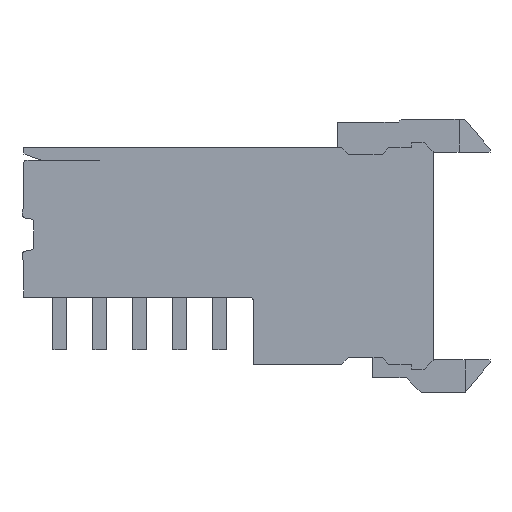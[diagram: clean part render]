
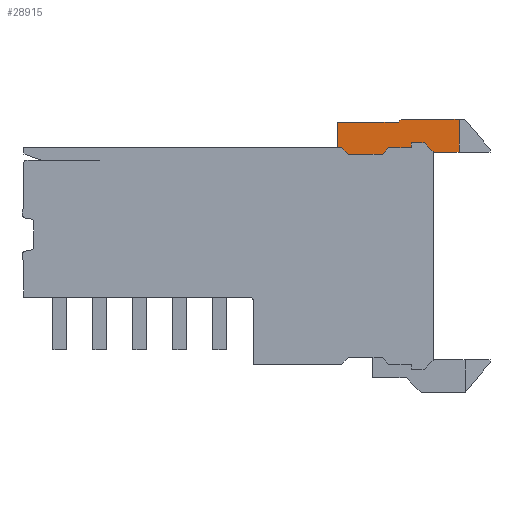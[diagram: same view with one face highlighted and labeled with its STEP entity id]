
A CAD part, left-side view. The second image highlights one B-rep face of the part: STEP entity #28915.
In plain terms, the highlighted planar face has unit normal (-1, 0, 0).
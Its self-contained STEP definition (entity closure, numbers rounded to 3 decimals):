
#287 = DIRECTION ( 'NONE',  ( 0., 0., -1. ) ) ;
#288 = VECTOR ( 'NONE', #287, 1000. ) ;
#289 = CARTESIAN_POINT ( 'NONE',  ( -26.77, -7.9, 11.1 ) ) ;
#290 = LINE ( 'NONE', #289, #288 ) ;
#1847 = DIRECTION ( 'NONE',  ( 0., 1., 0. ) ) ;
#1848 = VECTOR ( 'NONE', #1847, 1000. ) ;
#1849 = CARTESIAN_POINT ( 'NONE',  ( -26.77, -8.55, 11.35 ) ) ;
#1850 = LINE ( 'NONE', #1849, #1848 ) ;
#5214 = DIRECTION ( 'NONE',  ( 0., 1., 0. ) ) ;
#5215 = VECTOR ( 'NONE', #5214, 1000. ) ;
#5216 = CARTESIAN_POINT ( 'NONE',  ( -26.77, -6.78, 11.1 ) ) ;
#5217 = LINE ( 'NONE', #5216, #5215 ) ;
#8962 = EDGE_CURVE ( 'NONE', #36677, #26684, #75204, .T. ) ;
#9471 = EDGE_CURVE ( 'NONE', #9474, #60953, #10297, .T. ) ;
#9474 = VERTEX_POINT ( 'NONE', #10289 ) ;
#10289 = CARTESIAN_POINT ( 'NONE',  ( -26.77, -9., 10.875 ) ) ;
#10294 = DIRECTION ( 'NONE',  ( 0., 0., 1. ) ) ;
#10295 = VECTOR ( 'NONE', #10294, 1000. ) ;
#10296 = CARTESIAN_POINT ( 'NONE',  ( -26.77, -9., 0.45 ) ) ;
#10297 = LINE ( 'NONE', #10296, #10295 ) ;
#14530 = CARTESIAN_POINT ( 'NONE',  ( -26.77, -4.75, 10.77 ) ) ;
#14531 = DIRECTION ( 'NONE',  ( 0., -1., 0. ) ) ;
#14532 = VECTOR ( 'NONE', #14531, 1000. ) ;
#14533 = CARTESIAN_POINT ( 'NONE',  ( -26.77, -4.75, 10.77 ) ) ;
#14534 = LINE ( 'NONE', #14533, #14532 ) ;
#14556 = CARTESIAN_POINT ( 'NONE',  ( -26.77, -6.45, 10.77 ) ) ;
#14557 = DIRECTION ( 'NONE',  ( 0., -0.707, 0.707 ) ) ;
#14558 = VECTOR ( 'NONE', #14557, 1000. ) ;
#14559 = CARTESIAN_POINT ( 'NONE',  ( -26.77, -6.45, 10.77 ) ) ;
#14560 = LINE ( 'NONE', #14559, #14558 ) ;
#14561 = CARTESIAN_POINT ( 'NONE',  ( -26.77, -6.78, 11.1 ) ) ;
#18333 = CARTESIAN_POINT ( 'NONE',  ( -26.77, -10.3, 12.525 ) ) ;
#18334 = CARTESIAN_POINT ( 'NONE',  ( -26.77, -7.4, 12.525 ) ) ;
#18335 = DIRECTION ( 'NONE',  ( 0., -1., 0. ) ) ;
#18336 = VECTOR ( 'NONE', #18335, 1000. ) ;
#18337 = CARTESIAN_POINT ( 'NONE',  ( -26.77, -8.4, 12.525 ) ) ;
#18338 = LINE ( 'NONE', #18337, #18336 ) ;
#18364 = DIRECTION ( 'NONE',  ( 0., 0., -1. ) ) ;
#18365 = DIRECTION ( 'NONE',  ( 1., 0., 0. ) ) ;
#18366 = CARTESIAN_POINT ( 'NONE',  ( -26.77, -6.78, 10.77 ) ) ;
#18367 = AXIS2_PLACEMENT_3D ( 'NONE', #18366, #18365, #18364 ) ;
#18368 = PLANE ( 'NONE',  #18367 ) ;
#18369 = FACE_OUTER_BOUND ( 'NONE', #28916, .T. ) ;
#18414 = DIRECTION ( 'NONE',  ( 0., 1., 0. ) ) ;
#18415 = VECTOR ( 'NONE', #18414, 1000. ) ;
#18416 = CARTESIAN_POINT ( 'NONE',  ( -26.77, -11.85, 10.875 ) ) ;
#18417 = LINE ( 'NONE', #18416, #18415 ) ;
#18418 = CARTESIAN_POINT ( 'NONE',  ( -26.77, -10.3, 10.875 ) ) ;
#18455 = CARTESIAN_POINT ( 'NONE',  ( -26.77, -7.4, 12.525 ) ) ;
#18456 = LINE ( 'NONE', #18455, #18519 ) ;
#18457 = DIRECTION ( 'NONE',  ( 0., 0., 1. ) ) ;
#18458 = VECTOR ( 'NONE', #18457, 1000. ) ;
#18459 = CARTESIAN_POINT ( 'NONE',  ( -26.77, -10.3, 10.77 ) ) ;
#18460 = LINE ( 'NONE', #18459, #18458 ) ;
#18508 = DIRECTION ( 'NONE',  ( 0., 0., -1. ) ) ;
#18509 = VECTOR ( 'NONE', #18508, 1000. ) ;
#18510 = CARTESIAN_POINT ( 'NONE',  ( -26.77, -4.2, 12.375 ) ) ;
#18511 = LINE ( 'NONE', #18510, #18509 ) ;
#18512 = CARTESIAN_POINT ( 'NONE',  ( -26.77, -4.2, 12.375 ) ) ;
#18513 = DIRECTION ( 'NONE',  ( 0., 1., 0. ) ) ;
#18514 = VECTOR ( 'NONE', #18513, 1000. ) ;
#18515 = CARTESIAN_POINT ( 'NONE',  ( -26.77, -7.25, 12.375 ) ) ;
#18516 = LINE ( 'NONE', #18515, #18514 ) ;
#18517 = CARTESIAN_POINT ( 'NONE',  ( -26.77, -7.25, 12.375 ) ) ;
#18518 = DIRECTION ( 'NONE',  ( 0., 0.707, -0.707 ) ) ;
#18519 = VECTOR ( 'NONE', #18518, 1000. ) ;
#26683 = EDGE_CURVE ( 'NONE', #26684, #26702, #14534, .T. ) ;
#26684 = VERTEX_POINT ( 'NONE', #14530 ) ;
#26699 = VERTEX_POINT ( 'NONE', #14561 ) ;
#26701 = EDGE_CURVE ( 'NONE', #26702, #26699, #14560, .T. ) ;
#26702 = VERTEX_POINT ( 'NONE', #14556 ) ;
#28887 = EDGE_CURVE ( 'NONE', #28888, #28889, #18338, .T. ) ;
#28888 = VERTEX_POINT ( 'NONE', #18334 ) ;
#28889 = VERTEX_POINT ( 'NONE', #18333 ) ;
#28915 = ADVANCED_FACE ( 'NONE', ( #18369 ), #18368, .F. ) ;
#28916 = EDGE_LOOP ( 'NONE', ( #28980, #28981, #28983, #28984, #28987, #28990, #28992, #28969, #28970, #28972, #28973, #28974, #28975, #28976, #28977 ) ) ;
#28930 = VERTEX_POINT ( 'NONE', #18418 ) ;
#28932 = EDGE_CURVE ( 'NONE', #28930, #9474, #18417, .T. ) ;
#28969 = ORIENTED_EDGE ( 'NONE', *, *, #8962, .T. ) ;
#28970 = ORIENTED_EDGE ( 'NONE', *, *, #26683, .T. ) ;
#28972 = ORIENTED_EDGE ( 'NONE', *, *, #26701, .T. ) ;
#28973 = ORIENTED_EDGE ( 'NONE', *, *, #71545, .F. ) ;
#28974 = ORIENTED_EDGE ( 'NONE', *, *, #66391, .F. ) ;
#28975 = ORIENTED_EDGE ( 'NONE', *, *, #68069, .F. ) ;
#28976 = ORIENTED_EDGE ( 'NONE', *, *, #61093, .F. ) ;
#28977 = ORIENTED_EDGE ( 'NONE', *, *, #9471, .F. ) ;
#28980 = ORIENTED_EDGE ( 'NONE', *, *, #28932, .F. ) ;
#28981 = ORIENTED_EDGE ( 'NONE', *, *, #28982, .T. ) ;
#28982 = EDGE_CURVE ( 'NONE', #28930, #28889, #18460, .T. ) ;
#28983 = ORIENTED_EDGE ( 'NONE', *, *, #28887, .F. ) ;
#28984 = ORIENTED_EDGE ( 'NONE', *, *, #28985, .T. ) ;
#28985 = EDGE_CURVE ( 'NONE', #28888, #28986, #18456, .T. ) ;
#28986 = VERTEX_POINT ( 'NONE', #18517 ) ;
#28987 = ORIENTED_EDGE ( 'NONE', *, *, #28988, .T. ) ;
#28988 = EDGE_CURVE ( 'NONE', #28986, #28989, #18516, .T. ) ;
#28989 = VERTEX_POINT ( 'NONE', #18512 ) ;
#28990 = ORIENTED_EDGE ( 'NONE', *, *, #28991, .T. ) ;
#28991 = EDGE_CURVE ( 'NONE', #28989, #36687, #18511, .T. ) ;
#28992 = ORIENTED_EDGE ( 'NONE', *, *, #36685, .T. ) ;
#36677 = VERTEX_POINT ( 'NONE', #56664 ) ;
#36685 = EDGE_CURVE ( 'NONE', #36687, #36677, #56786, .T. ) ;
#36687 = VERTEX_POINT ( 'NONE', #56778 ) ;
#56664 = CARTESIAN_POINT ( 'NONE',  ( -26.77, -4.42, 11.1 ) ) ;
#56778 = CARTESIAN_POINT ( 'NONE',  ( -26.77, -4.2, 11.1 ) ) ;
#56781 = DIRECTION ( 'NONE',  ( 0., -1., 0. ) ) ;
#56782 = VECTOR ( 'NONE', #56781, 1000. ) ;
#56784 = CARTESIAN_POINT ( 'NONE',  ( -26.77, -4.2, 11.1 ) ) ;
#56786 = LINE ( 'NONE', #56784, #56782 ) ;
#60361 = VERTEX_POINT ( 'NONE', #89897 ) ;
#60953 = VERTEX_POINT ( 'NONE', #90394 ) ;
#61093 = EDGE_CURVE ( 'NONE', #60953, #60361, #90531, .T. ) ;
#65465 = VERTEX_POINT ( 'NONE', #94387 ) ;
#65514 = VERTEX_POINT ( 'NONE', #94413 ) ;
#66391 = EDGE_CURVE ( 'NONE', #65465, #65514, #290, .T. ) ;
#68069 = EDGE_CURVE ( 'NONE', #60361, #65465, #1850, .T. ) ;
#71545 = EDGE_CURVE ( 'NONE', #65514, #26699, #5217, .T. ) ;
#75200 = DIRECTION ( 'NONE',  ( 0., -0.707, -0.707 ) ) ;
#75201 = VECTOR ( 'NONE', #75200, 1000. ) ;
#75202 = CARTESIAN_POINT ( 'NONE',  ( -26.77, -4.42, 11.1 ) ) ;
#75204 = LINE ( 'NONE', #75202, #75201 ) ;
#89897 = CARTESIAN_POINT ( 'NONE',  ( -26.77, -8.55, 11.35 ) ) ;
#90394 = CARTESIAN_POINT ( 'NONE',  ( -26.77, -9., 10.9 ) ) ;
#90528 = DIRECTION ( 'NONE',  ( 0., 0.707, 0.707 ) ) ;
#90529 = VECTOR ( 'NONE', #90528, 1000. ) ;
#90530 = CARTESIAN_POINT ( 'NONE',  ( -26.77, -9., 10.9 ) ) ;
#90531 = LINE ( 'NONE', #90530, #90529 ) ;
#94387 = CARTESIAN_POINT ( 'NONE',  ( -26.77, -7.9, 11.35 ) ) ;
#94413 = CARTESIAN_POINT ( 'NONE',  ( -26.77, -7.9, 11.1 ) ) ;
